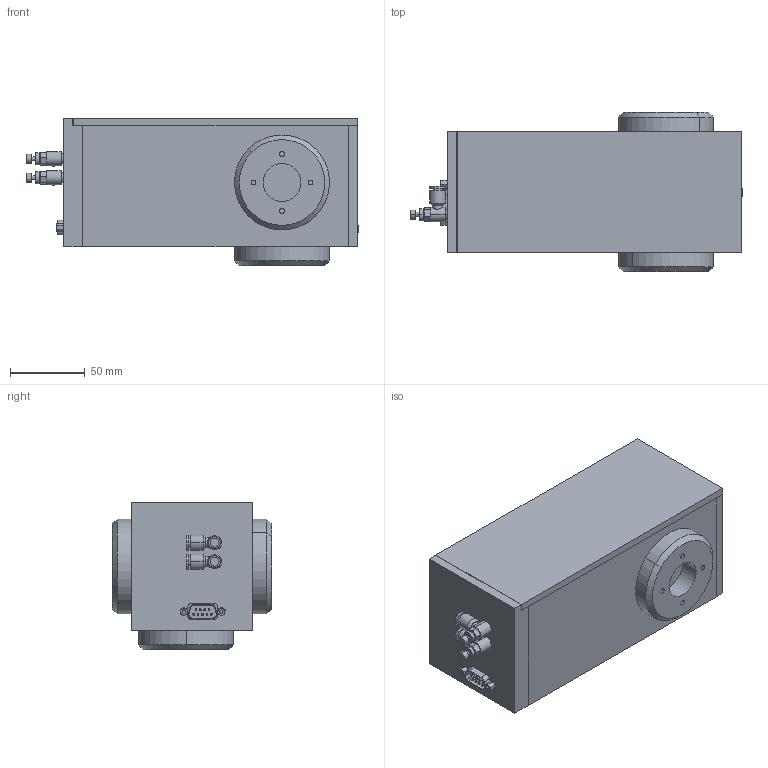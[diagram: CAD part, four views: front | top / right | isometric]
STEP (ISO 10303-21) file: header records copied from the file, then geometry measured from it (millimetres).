
FILE_DESCRIPTION (( 'STEP AP214' ), '1' );
FILE_NAME ('BSU-19-PNEU-RH.STEP', '2016-07-07T19:25:15', ( '' ), ( '' ), 'SwSTEP 2.0', 'SolidWorks 2016', '' );
FILE_SCHEMA (( 'AUTOMOTIVE_DESIGN' ));
Length unit declared in the file: inch
Products named in the file (1): BSU-19-PNEU-RH
Bounding box: 221.92 x 106.36 x 98.42 mm (x, y, z)
Volume: 1467568.3 mm3; surface area: 95493 mm2
Topology: 1 solids, 1 shells, 306 faces, 658 edges, 411 vertices
Faces by surface type: cylinder 124, plane 114, torus 56, cone 12
Entity records: 8741 total; most frequent: CARTESIAN_POINT 1847, DIRECTION 1557, ORIENTED_EDGE 1316, EDGE_CURVE 658, AXIS2_PLACEMENT_3D 645, VERTEX_POINT 411, EDGE_LOOP 363, CIRCLE 338
